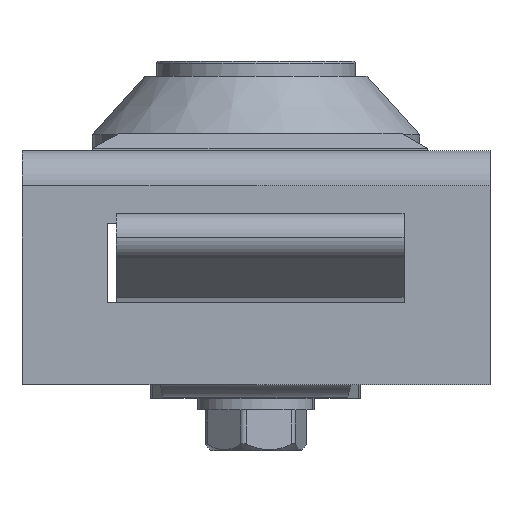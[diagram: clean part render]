
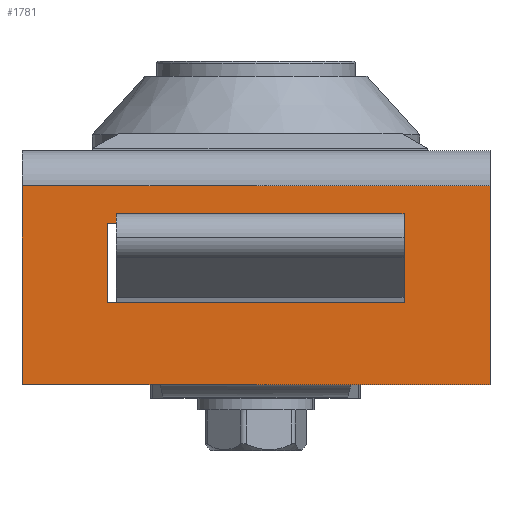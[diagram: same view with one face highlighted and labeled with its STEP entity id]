
A CAD part, top view. The second image highlights one B-rep face of the part: STEP entity #1781.
In plain terms, the highlighted planar face has unit normal (0, 0, 1).
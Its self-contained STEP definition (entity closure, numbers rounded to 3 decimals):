
#1536 = VERTEX_POINT ( 'NONE', #5988 ) ;
#1576 = VERTEX_POINT ( 'NONE', #5994 ) ;
#1640 = EDGE_CURVE ( 'NONE', #1641, #1576, #6122, .T. ) ;
#1641 = VERTEX_POINT ( 'NONE', #6118 ) ;
#1699 = EDGE_LOOP ( 'NONE', ( #1700, #1704, #1707, #1763 ) ) ;
#1700 = ORIENTED_EDGE ( 'NONE', *, *, #1701, .F. ) ;
#1701 = EDGE_CURVE ( 'NONE', #1702, #1703, #6271, .T. ) ;
#1702 = VERTEX_POINT ( 'NONE', #6267 ) ;
#1703 = VERTEX_POINT ( 'NONE', #6266 ) ;
#1704 = ORIENTED_EDGE ( 'NONE', *, *, #1705, .F. ) ;
#1705 = EDGE_CURVE ( 'NONE', #1706, #1702, #6265, .T. ) ;
#1706 = VERTEX_POINT ( 'NONE', #6261 ) ;
#1707 = ORIENTED_EDGE ( 'NONE', *, *, #1708, .F. ) ;
#1708 = EDGE_CURVE ( 'NONE', #1709, #1706, #6260, .T. ) ;
#1709 = VERTEX_POINT ( 'NONE', #6256 ) ;
#1721 = EDGE_CURVE ( 'NONE', #1536, #1576, #6307, .T. ) ;
#1763 = ORIENTED_EDGE ( 'NONE', *, *, #1764, .F. ) ;
#1764 = EDGE_CURVE ( 'NONE', #1703, #1709, #6358, .T. ) ;
#1765 = EDGE_LOOP ( 'NONE', ( #1766, #1767, #1770, #1772 ) ) ;
#1766 = ORIENTED_EDGE ( 'NONE', *, *, #1640, .F. ) ;
#1767 = ORIENTED_EDGE ( 'NONE', *, *, #1768, .F. ) ;
#1768 = EDGE_CURVE ( 'NONE', #1769, #1641, #6354, .T. ) ;
#1769 = VERTEX_POINT ( 'NONE', #6350 ) ;
#1770 = ORIENTED_EDGE ( 'NONE', *, *, #1771, .T. ) ;
#1771 = EDGE_CURVE ( 'NONE', #1769, #1536, #6349, .T. ) ;
#1772 = ORIENTED_EDGE ( 'NONE', *, *, #1721, .T. ) ;
#1781 = ADVANCED_FACE ( 'NONE', ( #6401, #6400 ), #6399, .T. ) ;
#5988 = CARTESIAN_POINT ( 'NONE',  ( 40., 22.239, 26.129 ) ) ;
#5994 = CARTESIAN_POINT ( 'NONE',  ( 0., 22.239, 26.129 ) ) ;
#6118 = CARTESIAN_POINT ( 'NONE',  ( 0., 5.239, 26.129 ) ) ;
#6119 = DIRECTION ( 'NONE',  ( 0., 1., 0. ) ) ;
#6120 = VECTOR ( 'NONE', #6119, 1000. ) ;
#6121 = CARTESIAN_POINT ( 'NONE',  ( 0., 5.239, 26.129 ) ) ;
#6122 = LINE ( 'NONE', #6121, #6120 ) ;
#6256 = CARTESIAN_POINT ( 'NONE',  ( 32.65, 12.239, 26.129 ) ) ;
#6257 = DIRECTION ( 'NONE',  ( 0., 1., 0. ) ) ;
#6258 = VECTOR ( 'NONE', #6257, 1000. ) ;
#6259 = CARTESIAN_POINT ( 'NONE',  ( 32.65, 19.039, 26.129 ) ) ;
#6260 = LINE ( 'NONE', #6259, #6258 ) ;
#6261 = CARTESIAN_POINT ( 'NONE',  ( 32.65, 19.039, 26.129 ) ) ;
#6262 = DIRECTION ( 'NONE',  ( -1., 0., 0. ) ) ;
#6263 = VECTOR ( 'NONE', #6262, 1000. ) ;
#6264 = CARTESIAN_POINT ( 'NONE',  ( 7.35, 19.039, 26.129 ) ) ;
#6265 = LINE ( 'NONE', #6264, #6263 ) ;
#6266 = CARTESIAN_POINT ( 'NONE',  ( 7.35, 12.239, 26.129 ) ) ;
#6267 = CARTESIAN_POINT ( 'NONE',  ( 7.35, 19.039, 26.129 ) ) ;
#6268 = DIRECTION ( 'NONE',  ( 0., -1., 0. ) ) ;
#6269 = VECTOR ( 'NONE', #6268, 1000. ) ;
#6270 = CARTESIAN_POINT ( 'NONE',  ( 7.35, 19.039, 26.129 ) ) ;
#6271 = LINE ( 'NONE', #6270, #6269 ) ;
#6301 = DIRECTION ( 'NONE',  ( -1., 0., 0. ) ) ;
#6302 = VECTOR ( 'NONE', #6301, 1000. ) ;
#6303 = CARTESIAN_POINT ( 'NONE',  ( 40., 22.239, 26.129 ) ) ;
#6307 = LINE ( 'NONE', #6303, #6302 ) ;
#6346 = DIRECTION ( 'NONE',  ( 0., 1., 0. ) ) ;
#6347 = VECTOR ( 'NONE', #6346, 1000. ) ;
#6348 = CARTESIAN_POINT ( 'NONE',  ( 40., 5.239, 26.129 ) ) ;
#6349 = LINE ( 'NONE', #6348, #6347 ) ;
#6350 = CARTESIAN_POINT ( 'NONE',  ( 40., 5.239, 26.129 ) ) ;
#6351 = DIRECTION ( 'NONE',  ( -1., 0., 0. ) ) ;
#6352 = VECTOR ( 'NONE', #6351, 1000. ) ;
#6353 = CARTESIAN_POINT ( 'NONE',  ( 40., 5.239, 26.129 ) ) ;
#6354 = LINE ( 'NONE', #6353, #6352 ) ;
#6355 = DIRECTION ( 'NONE',  ( 1., 0., 0. ) ) ;
#6356 = VECTOR ( 'NONE', #6355, 1000. ) ;
#6357 = CARTESIAN_POINT ( 'NONE',  ( 7.35, 12.239, 26.129 ) ) ;
#6358 = LINE ( 'NONE', #6357, #6356 ) ;
#6395 = DIRECTION ( 'NONE',  ( 1., 0., 0. ) ) ;
#6396 = DIRECTION ( 'NONE',  ( 0., 0., 1. ) ) ;
#6397 = CARTESIAN_POINT ( 'NONE',  ( 40., 5.239, 26.129 ) ) ;
#6398 = AXIS2_PLACEMENT_3D ( 'NONE', #6397, #6396, #6395 ) ;
#6399 = PLANE ( 'NONE',  #6398 ) ;
#6400 = FACE_OUTER_BOUND ( 'NONE', #1765, .T. ) ;
#6401 = FACE_BOUND ( 'NONE', #1699, .T. ) ;
